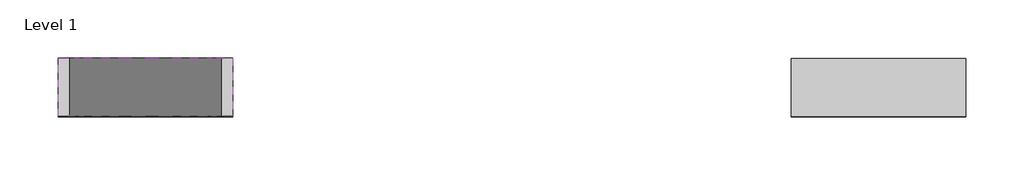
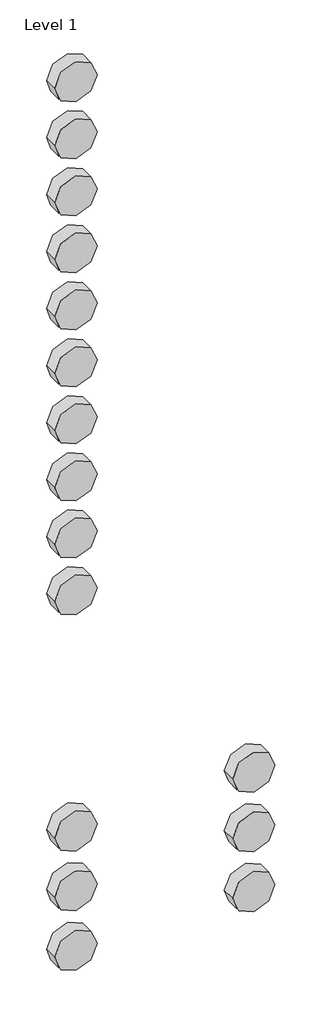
# One storey, incomplete: 16 proxies.
"""IFC4 building model written with IfcOpenShell, lengths in millimetres."""

from ifc_helpers import new_model, si_unit, origin, place, context, project, spatial, transform, mapped, element, save
from components import materialmodel_materialmodel_fd2eb195

model = new_model("IFC4")

# Units and contexts
model_context = context("Model", 3, world=origin())
ifc_project = project(units=[si_unit("LENGTHUNIT", "METRE", prefix="MILLI")], contexts=[model_context])

# Site, building, storey
site = spatial("IfcSite", under=ifc_project)
building = spatial("IfcBuilding", under=site)
storey = spatial("IfcBuildingStorey", under=building, Name="Level 1", Elevation=0.0)

# Proxies
placement = place(None, origin())
materialmodel_materialmodel_shape = materialmodel_materialmodel_fd2eb195(model_context)
element("IfcBuildingElementProxy", 1, Name="MaterialModel : MaterialModel", ObjectType="MaterialModel : MaterialModel", at=placement, inside=storey, context=model_context, shape_type="MappedRepresentation", body=[
    mapped(materialmodel_materialmodel_shape, transform((-4092.9822456, -305.1378897, -1499.3308291), x_axis=(1.0, 0.0, 0.0), y_axis=(0.0, 1.0, 0.0), z_axis=(0.0, 0.0, 1.0))),
])
element("IfcBuildingElementProxy", 2, Name="MaterialModel : MaterialModel", ObjectType="MaterialModel : MaterialModel", at=placement, inside=storey, context=model_context, shape_type="MappedRepresentation", body=[
    mapped(materialmodel_materialmodel_shape, transform((-3462.9822456, -305.1378897, -1722.8355428), x_axis=(1.0, 0.0, 0.0), y_axis=(0.0, 1.0, 0.0), z_axis=(0.0, 0.0, 1.0))),
])
element("IfcBuildingElementProxy", 3, Name="MaterialModel : MaterialModel", ObjectType="MaterialModel : MaterialModel", at=placement, inside=storey, context=model_context, shape_type="MappedRepresentation", body=[
    mapped(materialmodel_materialmodel_shape, transform((-3462.9822456, -305.1378897, -1275.8261153), x_axis=(1.0, 0.0, 0.0), y_axis=(0.0, 1.0, 0.0), z_axis=(0.0, 0.0, 1.0))),
])
element("IfcBuildingElementProxy", 4, Name="MaterialModel : MaterialModel", ObjectType="MaterialModel : MaterialModel", at=placement, inside=storey, context=model_context, shape_type="MappedRepresentation", body=[
    mapped(materialmodel_materialmodel_shape, transform((-3462.9822456, -305.1378897, -1499.3308291), x_axis=(1.0, 0.0, 0.0), y_axis=(0.0, 1.0, 0.0), z_axis=(0.0, 0.0, 1.0))),
])
element("IfcBuildingElementProxy", 5, Name="MaterialModel : MaterialModel", ObjectType="MaterialModel : MaterialModel", at=placement, inside=storey, context=model_context, shape_type="MappedRepresentation", body=[
    mapped(materialmodel_materialmodel_shape, transform((-4092.9822456, -305.1378897, -1275.8261153), x_axis=(1.0, 0.0, 0.0), y_axis=(0.0, 1.0, 0.0), z_axis=(0.0, 0.0, 1.0))),
])
element("IfcBuildingElementProxy", 6, Name="MaterialModel : MaterialModel", ObjectType="MaterialModel : MaterialModel", at=placement, inside=storey, context=model_context, shape_type="MappedRepresentation", body=[
    mapped(materialmodel_materialmodel_shape, transform((-4092.9822456, -305.1378897, -1722.8355428), x_axis=(1.0, 0.0, 0.0), y_axis=(0.0, 1.0, 0.0), z_axis=(0.0, 0.0, 1.0))),
])
element("IfcBuildingElementProxy", 7, Name="MaterialModel : MaterialModel", ObjectType="MaterialModel : MaterialModel", at=placement, inside=storey, context=model_context, shape_type="MappedRepresentation", body=[
    mapped(materialmodel_materialmodel_shape, transform((-4092.9822456, -305.1378897, 1529.1738847), x_axis=(1.0, 0.0, 0.0), y_axis=(0.0, 1.0, 0.0), z_axis=(0.0, 0.0, 1.0))),
])
element("IfcBuildingElementProxy", 8, Name="MaterialModel : MaterialModel", ObjectType="MaterialModel : MaterialModel", at=placement, inside=storey, context=model_context, shape_type="MappedRepresentation", body=[
    mapped(materialmodel_materialmodel_shape, transform((-4092.9822456, -305.1378897, 1315.6938776), x_axis=(1.0, 0.0, 0.0), y_axis=(0.0, 1.0, 0.0), z_axis=(0.0, 0.0, 1.0))),
])
element("IfcBuildingElementProxy", 9, Name="MaterialModel : MaterialModel", ObjectType="MaterialModel : MaterialModel", at=placement, inside=storey, context=model_context, shape_type="MappedRepresentation", body=[
    mapped(materialmodel_materialmodel_shape, transform((-4092.9822456, -305.1378897, 1102.2138705), x_axis=(1.0, 0.0, 0.0), y_axis=(0.0, 1.0, 0.0), z_axis=(0.0, 0.0, 1.0))),
])
element("IfcBuildingElementProxy", 10, Name="MaterialModel : MaterialModel", ObjectType="MaterialModel : MaterialModel", at=placement, inside=storey, context=model_context, shape_type="MappedRepresentation", body=[
    mapped(materialmodel_materialmodel_shape, transform((-4092.9822456, -305.1378897, 888.7338635), x_axis=(1.0, 0.0, 0.0), y_axis=(0.0, 1.0, 0.0), z_axis=(0.0, 0.0, 1.0))),
])
element("IfcBuildingElementProxy", 11, Name="MaterialModel : MaterialModel", ObjectType="MaterialModel : MaterialModel", at=placement, inside=storey, context=model_context, shape_type="MappedRepresentation", body=[
    mapped(materialmodel_materialmodel_shape, transform((-4092.9822456, -305.1378897, 675.2538564), x_axis=(1.0, 0.0, 0.0), y_axis=(0.0, 1.0, 0.0), z_axis=(0.0, 0.0, 1.0))),
])
element("IfcBuildingElementProxy", 12, Name="MaterialModel : MaterialModel", ObjectType="MaterialModel : MaterialModel", at=placement, inside=storey, context=model_context, shape_type="MappedRepresentation", body=[
    mapped(materialmodel_materialmodel_shape, transform((-4092.9822456, -305.1378897, 461.7738493), x_axis=(1.0, 0.0, 0.0), y_axis=(0.0, 1.0, 0.0), z_axis=(0.0, 0.0, 1.0))),
])
element("IfcBuildingElementProxy", 13, Name="MaterialModel : MaterialModel", ObjectType="MaterialModel : MaterialModel", at=placement, inside=storey, context=model_context, shape_type="MappedRepresentation", body=[
    mapped(materialmodel_materialmodel_shape, transform((-4092.9822456, -305.1378897, 248.2938422), x_axis=(1.0, 0.0, 0.0), y_axis=(0.0, 1.0, 0.0), z_axis=(0.0, 0.0, 1.0))),
])
element("IfcBuildingElementProxy", 14, Name="MaterialModel : MaterialModel", ObjectType="MaterialModel : MaterialModel", at=placement, inside=storey, context=model_context, shape_type="MappedRepresentation", body=[
    mapped(materialmodel_materialmodel_shape, transform((-4092.9822456, -305.1378897, 34.8138352), x_axis=(1.0, 0.0, 0.0), y_axis=(0.0, 1.0, 0.0), z_axis=(0.0, 0.0, 1.0))),
])
element("IfcBuildingElementProxy", 15, Name="MaterialModel : MaterialModel", ObjectType="MaterialModel : MaterialModel", at=placement, inside=storey, context=model_context, shape_type="MappedRepresentation", body=[
    mapped(materialmodel_materialmodel_shape, transform((-4092.9822456, -305.1378897, -178.6661719), x_axis=(1.0, 0.0, 0.0), y_axis=(0.0, 1.0, 0.0), z_axis=(0.0, 0.0, 1.0))),
])
element("IfcBuildingElementProxy", 16, Name="MaterialModel : MaterialModel", ObjectType="MaterialModel : MaterialModel", at=placement, inside=storey, context=model_context, shape_type="MappedRepresentation", body=[
    mapped(materialmodel_materialmodel_shape, transform((-4092.9822456, -305.1378897, -392.146179), x_axis=(1.0, 0.0, 0.0), y_axis=(0.0, 1.0, 0.0), z_axis=(0.0, 0.0, 1.0))),
])

save(model, "model.ifc")
